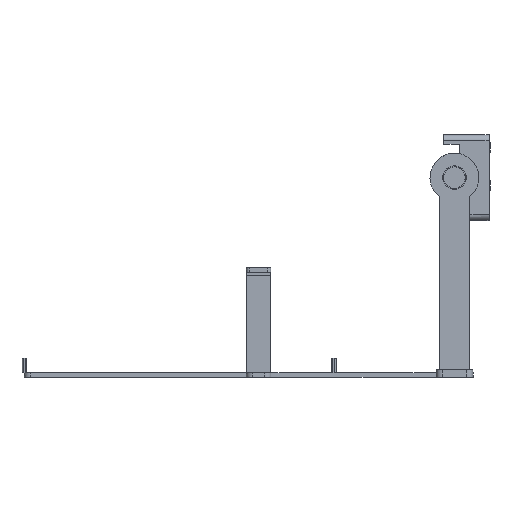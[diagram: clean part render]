
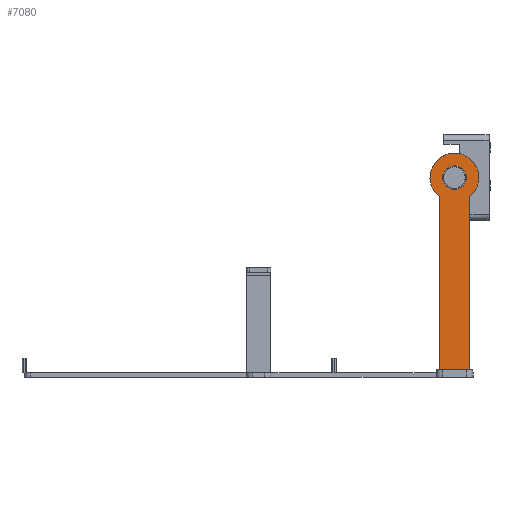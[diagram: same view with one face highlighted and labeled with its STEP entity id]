
A CAD part, front view. The second image highlights one B-rep face of the part: STEP entity #7080.
In plain terms, the highlighted planar face has unit normal (0, -1, 0).
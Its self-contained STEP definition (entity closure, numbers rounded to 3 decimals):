
#2900 = PLANE('',#2901);
#2901 = AXIS2_PLACEMENT_3D('',#2902,#2903,#2904);
#2902 = CARTESIAN_POINT('',(90.,0.,3.2));
#2903 = DIRECTION('',(0.,0.,1.));
#2904 = DIRECTION('',(1.,0.,-0.));
#5780 = VERTEX_POINT('',#5781);
#5781 = CARTESIAN_POINT('',(85.,-40.8,3.2));
#5797 = PLANE('',#5798);
#5798 = AXIS2_PLACEMENT_3D('',#5799,#5800,#5801);
#5799 = CARTESIAN_POINT('',(85.,-40.8,3.2));
#5800 = DIRECTION('',(1.,0.,-0.));
#5801 = DIRECTION('',(0.,0.,1.));
#5838 = VERTEX_POINT('',#5839);
#5839 = CARTESIAN_POINT('',(95.,-40.8,3.2));
#5853 = PLANE('',#5854);
#5854 = AXIS2_PLACEMENT_3D('',#5855,#5856,#5857);
#5855 = CARTESIAN_POINT('',(95.,-40.8,3.2));
#5856 = DIRECTION('',(1.,0.,-0.));
#5857 = DIRECTION('',(0.,0.,1.));
#5865 = EDGE_CURVE('',#5780,#5838,#5866,.T.);
#5866 = SURFACE_CURVE('',#5867,(#5871,#5878),.PCURVE_S1.);
#5867 = LINE('',#5868,#5869);
#5868 = CARTESIAN_POINT('',(85.,-40.8,3.2));
#5869 = VECTOR('',#5870,1.);
#5870 = DIRECTION('',(1.,0.,-0.));
#5871 = PCURVE('',#2900,#5872);
#5872 = DEFINITIONAL_REPRESENTATION('',(#5873),#5877);
#5873 = LINE('',#5874,#5875);
#5874 = CARTESIAN_POINT('',(-5.,-40.8));
#5875 = VECTOR('',#5876,1.);
#5876 = DIRECTION('',(1.,0.));
#5877 = ( GEOMETRIC_REPRESENTATION_CONTEXT(2) 
PARAMETRIC_REPRESENTATION_CONTEXT() REPRESENTATION_CONTEXT('2D SPACE',''
  ) );
#5878 = PCURVE('',#5879,#5884);
#5879 = PLANE('',#5880);
#5880 = AXIS2_PLACEMENT_3D('',#5881,#5882,#5883);
#5881 = CARTESIAN_POINT('',(85.,-40.8,3.2));
#5882 = DIRECTION('',(-0.,1.,0.));
#5883 = DIRECTION('',(0.,0.,1.));
#5884 = DEFINITIONAL_REPRESENTATION('',(#5885),#5889);
#5885 = LINE('',#5886,#5887);
#5886 = CARTESIAN_POINT('',(0.,0.));
#5887 = VECTOR('',#5888,1.);
#5888 = DIRECTION('',(0.,1.));
#5889 = ( GEOMETRIC_REPRESENTATION_CONTEXT(2) 
PARAMETRIC_REPRESENTATION_CONTEXT() REPRESENTATION_CONTEXT('2D SPACE',''
  ) );
#6925 = EDGE_CURVE('',#5780,#6926,#6928,.T.);
#6926 = VERTEX_POINT('',#6927);
#6927 = CARTESIAN_POINT('',(85.,-40.8,59.755));
#6928 = SURFACE_CURVE('',#6929,(#6933,#6940),.PCURVE_S1.);
#6929 = LINE('',#6930,#6931);
#6930 = CARTESIAN_POINT('',(85.,-40.8,3.2));
#6931 = VECTOR('',#6932,1.);
#6932 = DIRECTION('',(0.,0.,1.));
#6933 = PCURVE('',#5797,#6934);
#6934 = DEFINITIONAL_REPRESENTATION('',(#6935),#6939);
#6935 = LINE('',#6936,#6937);
#6936 = CARTESIAN_POINT('',(0.,0.));
#6937 = VECTOR('',#6938,1.);
#6938 = DIRECTION('',(1.,0.));
#6939 = ( GEOMETRIC_REPRESENTATION_CONTEXT(2) 
PARAMETRIC_REPRESENTATION_CONTEXT() REPRESENTATION_CONTEXT('2D SPACE',''
  ) );
#6940 = PCURVE('',#5879,#6941);
#6941 = DEFINITIONAL_REPRESENTATION('',(#6942),#6946);
#6942 = LINE('',#6943,#6944);
#6943 = CARTESIAN_POINT('',(0.,0.));
#6944 = VECTOR('',#6945,1.);
#6945 = DIRECTION('',(1.,0.));
#6946 = ( GEOMETRIC_REPRESENTATION_CONTEXT(2) 
PARAMETRIC_REPRESENTATION_CONTEXT() REPRESENTATION_CONTEXT('2D SPACE',''
  ) );
#6985 = CYLINDRICAL_SURFACE('',#6986,8.);
#6986 = AXIS2_PLACEMENT_3D('',#6987,#6988,#6989);
#6987 = CARTESIAN_POINT('',(90.,-38.6,66.));
#6988 = DIRECTION('',(0.,1.,0.));
#6989 = DIRECTION('',(1.,0.,0.));
#7069 = CYLINDRICAL_SURFACE('',#7070,3.85);
#7070 = AXIS2_PLACEMENT_3D('',#7071,#7072,#7073);
#7071 = CARTESIAN_POINT('',(90.,-37.7,66.));
#7072 = DIRECTION('',(0.,1.,0.));
#7073 = DIRECTION('',(1.,0.,0.));
#7080 = ADVANCED_FACE('',(#7081,#7134),#5879,.F.);
#7081 = FACE_BOUND('',#7082,.F.);
#7082 = EDGE_LOOP('',(#7083,#7106,#7107,#7108));
#7083 = ORIENTED_EDGE('',*,*,#7084,.F.);
#7084 = EDGE_CURVE('',#5838,#7085,#7087,.T.);
#7085 = VERTEX_POINT('',#7086);
#7086 = CARTESIAN_POINT('',(95.,-40.8,59.755));
#7087 = SURFACE_CURVE('',#7088,(#7092,#7099),.PCURVE_S1.);
#7088 = LINE('',#7089,#7090);
#7089 = CARTESIAN_POINT('',(95.,-40.8,3.2));
#7090 = VECTOR('',#7091,1.);
#7091 = DIRECTION('',(0.,0.,1.));
#7092 = PCURVE('',#5879,#7093);
#7093 = DEFINITIONAL_REPRESENTATION('',(#7094),#7098);
#7094 = LINE('',#7095,#7096);
#7095 = CARTESIAN_POINT('',(0.,10.));
#7096 = VECTOR('',#7097,1.);
#7097 = DIRECTION('',(1.,0.));
#7098 = ( GEOMETRIC_REPRESENTATION_CONTEXT(2) 
PARAMETRIC_REPRESENTATION_CONTEXT() REPRESENTATION_CONTEXT('2D SPACE',''
  ) );
#7099 = PCURVE('',#5853,#7100);
#7100 = DEFINITIONAL_REPRESENTATION('',(#7101),#7105);
#7101 = LINE('',#7102,#7103);
#7102 = CARTESIAN_POINT('',(0.,0.));
#7103 = VECTOR('',#7104,1.);
#7104 = DIRECTION('',(1.,0.));
#7105 = ( GEOMETRIC_REPRESENTATION_CONTEXT(2) 
PARAMETRIC_REPRESENTATION_CONTEXT() REPRESENTATION_CONTEXT('2D SPACE',''
  ) );
#7106 = ORIENTED_EDGE('',*,*,#5865,.F.);
#7107 = ORIENTED_EDGE('',*,*,#6925,.T.);
#7108 = ORIENTED_EDGE('',*,*,#7109,.F.);
#7109 = EDGE_CURVE('',#7085,#6926,#7110,.T.);
#7110 = SURFACE_CURVE('',#7111,(#7116,#7127),.PCURVE_S1.);
#7111 = CIRCLE('',#7112,8.);
#7112 = AXIS2_PLACEMENT_3D('',#7113,#7114,#7115);
#7113 = CARTESIAN_POINT('',(90.,-40.8,66.));
#7114 = DIRECTION('',(0.,-1.,0.));
#7115 = DIRECTION('',(0.625,0.,-0.781));
#7116 = PCURVE('',#5879,#7117);
#7117 = DEFINITIONAL_REPRESENTATION('',(#7118),#7126);
#7118 = ( BOUNDED_CURVE() B_SPLINE_CURVE(2,(#7119,#7120,#7121,#7122,
#7123,#7124,#7125),.UNSPECIFIED.,.T.,.F.) B_SPLINE_CURVE_WITH_KNOTS((1,2
    ,2,2,2,1),(-2.094,0.,2.094,4.189,
6.283,8.378),.UNSPECIFIED.) CURVE() 
GEOMETRIC_REPRESENTATION_ITEM() RATIONAL_B_SPLINE_CURVE((1.,0.5,1.,0.5,
1.,0.5,1.)) REPRESENTATION_ITEM('') );
#7119 = CARTESIAN_POINT('',(56.555,10.));
#7120 = CARTESIAN_POINT('',(65.215,20.817));
#7121 = CARTESIAN_POINT('',(70.253,7.908));
#7122 = CARTESIAN_POINT('',(75.29,-5.));
#7123 = CARTESIAN_POINT('',(61.592,-2.908));
#7124 = CARTESIAN_POINT('',(47.895,-0.817));
#7125 = CARTESIAN_POINT('',(56.555,10.));
#7126 = ( GEOMETRIC_REPRESENTATION_CONTEXT(2) 
PARAMETRIC_REPRESENTATION_CONTEXT() REPRESENTATION_CONTEXT('2D SPACE',''
  ) );
#7127 = PCURVE('',#6985,#7128);
#7128 = DEFINITIONAL_REPRESENTATION('',(#7129),#7133);
#7129 = LINE('',#7130,#7131);
#7130 = CARTESIAN_POINT('',(-5.388,-2.2));
#7131 = VECTOR('',#7132,1.);
#7132 = DIRECTION('',(-1.,0.));
#7133 = ( GEOMETRIC_REPRESENTATION_CONTEXT(2) 
PARAMETRIC_REPRESENTATION_CONTEXT() REPRESENTATION_CONTEXT('2D SPACE',''
  ) );
#7134 = FACE_BOUND('',#7135,.F.);
#7135 = EDGE_LOOP('',(#7136));
#7136 = ORIENTED_EDGE('',*,*,#7137,.F.);
#7137 = EDGE_CURVE('',#7138,#7138,#7140,.T.);
#7138 = VERTEX_POINT('',#7139);
#7139 = CARTESIAN_POINT('',(93.85,-40.8,66.));
#7140 = SURFACE_CURVE('',#7141,(#7146,#7153),.PCURVE_S1.);
#7141 = CIRCLE('',#7142,3.85);
#7142 = AXIS2_PLACEMENT_3D('',#7143,#7144,#7145);
#7143 = CARTESIAN_POINT('',(90.,-40.8,66.));
#7144 = DIRECTION('',(0.,1.,0.));
#7145 = DIRECTION('',(1.,0.,0.));
#7146 = PCURVE('',#5879,#7147);
#7147 = DEFINITIONAL_REPRESENTATION('',(#7148),#7152);
#7148 = CIRCLE('',#7149,3.85);
#7149 = AXIS2_PLACEMENT_2D('',#7150,#7151);
#7150 = CARTESIAN_POINT('',(62.8,5.));
#7151 = DIRECTION('',(0.,1.));
#7152 = ( GEOMETRIC_REPRESENTATION_CONTEXT(2) 
PARAMETRIC_REPRESENTATION_CONTEXT() REPRESENTATION_CONTEXT('2D SPACE',''
  ) );
#7153 = PCURVE('',#7069,#7154);
#7154 = DEFINITIONAL_REPRESENTATION('',(#7155),#7159);
#7155 = LINE('',#7156,#7157);
#7156 = CARTESIAN_POINT('',(-6.283,-3.1));
#7157 = VECTOR('',#7158,1.);
#7158 = DIRECTION('',(1.,-0.));
#7159 = ( GEOMETRIC_REPRESENTATION_CONTEXT(2) 
PARAMETRIC_REPRESENTATION_CONTEXT() REPRESENTATION_CONTEXT('2D SPACE',''
  ) );
